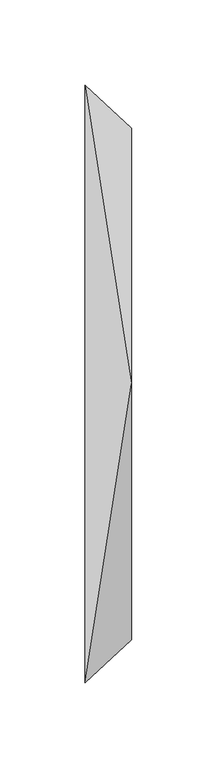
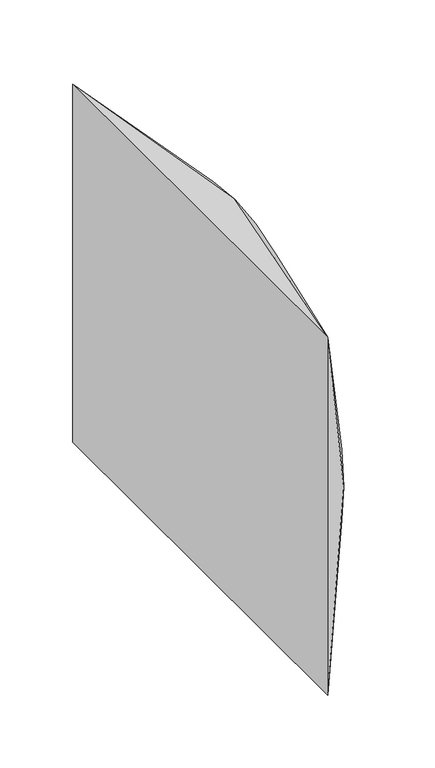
"""IFC4 building model written with IfcOpenShell, lengths in millimetres: duct fitting geometry, magicirc_multi_shape_trans_001 : magicirc_multi_shape_trans_001."""

from ifc_helpers import new_model, si_unit, frame, origin, place, context, project, spatial, circle_curve, source, transform, mapped, element, save
from ifc_brep_helpers import plane_surface, spline_surface, advanced_brep


def duct_fitting_ecc8bcd8(model_context):
    return source(origin(), model_context, "Body", "AdvancedBrep", [
        advanced_brep(
        [(0.0, -175.0, -150.0), (0.0, -175.0, 150.0), (0.0, 175.0, 150.0), (0.0, 175.0, -150.0), (27.2827125, -150.0, 0.05), (27.2827125, 0.0, -149.95), (27.2827125, 150.0, 0.05), (27.2827125, 0.0, 150.05)],
        [
            (0, 1),
            (1, 2),
            (2, 3),
            (3, 0),
            (4, 5, circle_curve(frame((27.2827125, 0.0, 0.05), z_axis=(1.0, 0.0, 0.0), x_axis=(0.0, -1.0, 0.0)), 150.0)),
            (5, 6, circle_curve(frame((27.2827125, 0.0, 0.05), z_axis=(1.0, 0.0, 0.0), x_axis=(0.0, -1.0, 0.0)), 150.0)),
            (6, 7, circle_curve(frame((27.2827125, 0.0, 0.05), z_axis=(1.0, 0.0, 0.0), x_axis=(0.0, -1.0, 0.0)), 150.0)),
            (7, 4, circle_curve(frame((27.2827125, 0.0, 0.05), z_axis=(1.0, 0.0, 0.0), x_axis=(0.0, -1.0, 0.0)), 150.0)),
            (0, 4),
            (4, 1),
            (7, 1),
            (7, 2),
            (6, 2),
            (6, 3),
            (5, 3),
            (5, 0),
        ],
        [
            plane_surface(frame((0.0, 0.0, 0.0), z_axis=(-1.0, 0.0, 0.0), x_axis=(0.0, 1.0, 0.0))),
            plane_surface(frame((27.2827125, 0.0, 0.05), z_axis=(1.0, 0.0, 0.0), x_axis=(0.0, 1.0, 0.0))),
            plane_surface(frame((27.2827125, -150.0, 0.05), z_axis=(0.6755902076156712, -0.737277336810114, 0.0), x_axis=(0.0, 0.0, 1.0))),
            spline_surface(2, 1, [[(27.2827125, -150.0, 0.05), (0.0, -175.0, 150.0)], [(27.2827125, -150.0, 150.05), (0.0, -175.0, 150.0)], [(27.2827125, 0.0, 150.05), (0.0, -175.0, 150.0)]], [3, 3], [2, 2], [0.0, 1.0], [0.0, 1.0], weights=[[1.0, 1.0], [0.7071067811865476, 0.7071067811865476], [1.0, 1.0]]),
            plane_surface(frame((27.2827125, 0.0, 150.05), z_axis=(-0.0018326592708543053, 0.0, 0.9999983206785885), x_axis=(0.0, 1.0, 0.0))),
            spline_surface(2, 1, [[(27.2827125, 0.0, 150.05), (0.0, 175.0, 150.0)], [(27.2827125, 150.0, 150.05), (0.0, 175.0, 150.0)], [(27.2827125, 150.0, 0.05), (0.0, 175.0, 150.0)]], [3, 3], [2, 2], [0.0, 1.0], [0.0, 1.0], weights=[[1.0, 1.0], [0.7071067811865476, 0.7071067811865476], [1.0, 1.0]]),
            plane_surface(frame((27.2827125, 150.0, 0.05), z_axis=(0.6755902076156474, 0.7372773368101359, 0.0), x_axis=(0.0, 0.0, -1.0))),
            spline_surface(2, 1, [[(27.2827125, 150.0, 0.05), (0.0, 175.0, -150.0)], [(27.2827125, 150.0, -149.95), (0.0, 175.0, -150.0)], [(27.2827125, 0.0, -149.95), (0.0, 175.0, -150.0)]], [3, 3], [2, 2], [0.0, 1.0], [0.0, 1.0], weights=[[1.0, 1.0], [0.7071067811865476, 0.7071067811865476], [1.0, 1.0]]),
            plane_surface(frame((27.2827125, 0.0, -149.95), z_axis=(0.001832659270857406, 0.0, -0.9999983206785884), x_axis=(0.0, -1.0, 0.0))),
            spline_surface(2, 1, [[(27.2827125, 0.0, -149.95), (0.0, -175.0, -150.0)], [(27.2827125, -150.0, -149.95), (0.0, -175.0, -150.0)], [(27.2827125, -150.0, 0.05), (0.0, -175.0, -150.0)]], [3, 3], [2, 2], [0.0, 1.0], [0.0, 1.0], weights=[[1.0, 1.0], [0.7071067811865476, 0.7071067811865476], [1.0, 1.0]]),
        ],
        [
            (0, [[1, 2, 3, 4]]),
            (1, [[5, 6, 7, 8]]),
            (2, [[-1, 9, 10]]),
            (3, [[-8, 11, -10]]),
            (4, [[-2, -11, 12]]),
            (5, [[-7, 13, -12]]),
            (6, [[-3, -13, 14]]),
            (7, [[-6, 15, -14]]),
            (8, [[-4, -15, 16]]),
            (9, [[-5, -9, -16]]),
        ],
    ),
        advanced_brep(
        [(0.0, -175.0, -150.0), (0.0, -175.0, 150.0), (0.0, 175.0, 150.0), (0.0, 175.0, -150.0), (27.2827125, -150.0, 0.05), (27.2827125, 0.0, -149.95), (27.2827125, 150.0, 0.05), (27.2827125, 0.0, 150.05)],
        [
            (0, 1),
            (1, 2),
            (2, 3),
            (3, 0),
            (4, 5, circle_curve(frame((27.2827125, 0.0, 0.05), z_axis=(1.0, 0.0, 0.0), x_axis=(0.0, -1.0, 0.0)), 150.0)),
            (5, 6, circle_curve(frame((27.2827125, 0.0, 0.05), z_axis=(1.0, 0.0, 0.0), x_axis=(0.0, -1.0, 0.0)), 150.0)),
            (6, 7, circle_curve(frame((27.2827125, 0.0, 0.05), z_axis=(1.0, 0.0, 0.0), x_axis=(0.0, -1.0, 0.0)), 150.0)),
            (7, 4, circle_curve(frame((27.2827125, 0.0, 0.05), z_axis=(1.0, 0.0, 0.0), x_axis=(0.0, -1.0, 0.0)), 150.0)),
            (0, 4),
            (4, 1),
            (7, 1),
            (7, 2),
            (6, 2),
            (6, 3),
            (5, 3),
            (5, 0),
        ],
        [
            plane_surface(frame((0.0, 0.0, 0.0), z_axis=(-1.0, 0.0, 0.0), x_axis=(0.0, 1.0, 0.0))),
            plane_surface(frame((27.2827125, 0.0, 0.05), z_axis=(1.0, 0.0, 0.0), x_axis=(0.0, 1.0, 0.0))),
            plane_surface(frame((27.2827125, -150.0, 0.05), z_axis=(0.6755902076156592, -0.737277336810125, 0.0), x_axis=(0.0, 0.0, 1.0))),
            spline_surface(2, 1, [[(27.2827125, -150.0, 0.05), (0.0, -175.0, 150.0)], [(27.2827125, -150.0, 150.05), (0.0, -175.0, 150.0)], [(27.2827125, 0.0, 150.05), (0.0, -175.0, 150.0)]], [3, 3], [2, 2], [0.0, 1.0], [0.0, 1.0], weights=[[1.0, 1.0], [0.7071067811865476, 0.7071067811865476], [1.0, 1.0]]),
            plane_surface(frame((27.2827125, 0.0, 150.05), z_axis=(-0.001832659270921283, 0.0, 0.9999983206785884), x_axis=(0.0, 1.0, 0.0))),
            spline_surface(2, 1, [[(27.2827125, 0.0, 150.05), (0.0, 175.0, 150.0)], [(27.2827125, 150.0, 150.05), (0.0, 175.0, 150.0)], [(27.2827125, 150.0, 0.05), (0.0, 175.0, 150.0)]], [3, 3], [2, 2], [0.0, 1.0], [0.0, 1.0], weights=[[1.0, 1.0], [0.7071067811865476, 0.7071067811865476], [1.0, 1.0]]),
            plane_surface(frame((27.2827125, 150.0, 0.05), z_axis=(0.6755902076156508, 0.7372773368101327, 0.0), x_axis=(0.0, 0.0, -1.0))),
            spline_surface(2, 1, [[(27.2827125, 150.0, 0.05), (0.0, 175.0, -150.0)], [(27.2827125, 150.0, -149.95), (0.0, 175.0, -150.0)], [(27.2827125, 0.0, -149.95), (0.0, 175.0, -150.0)]], [3, 3], [2, 2], [0.0, 1.0], [0.0, 1.0], weights=[[1.0, 1.0], [0.7071067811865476, 0.7071067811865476], [1.0, 1.0]]),
            plane_surface(frame((27.2827125, 0.0, -149.95), z_axis=(0.0018326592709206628, 0.0, -0.9999983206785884), x_axis=(0.0, -1.0, 0.0))),
            spline_surface(2, 1, [[(27.2827125, 0.0, -149.95), (0.0, -175.0, -150.0)], [(27.2827125, -150.0, -149.95), (0.0, -175.0, -150.0)], [(27.2827125, -150.0, 0.05), (0.0, -175.0, -150.0)]], [3, 3], [2, 2], [0.0, 1.0], [0.0, 1.0], weights=[[1.0, 1.0], [0.7071067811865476, 0.7071067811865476], [1.0, 1.0]]),
        ],
        [
            (0, [[1, 2, 3, 4]]),
            (1, [[5, 6, 7, 8]]),
            (2, [[-1, 9, 10]]),
            (3, [[-8, 11, -10]]),
            (4, [[-2, -11, 12]]),
            (5, [[-7, 13, -12]]),
            (6, [[-3, -13, 14]]),
            (7, [[-6, 15, -14]]),
            (8, [[-4, -15, 16]]),
            (9, [[-5, -9, -16]]),
        ],
    ),
        advanced_brep(
        [(27.2827125, 0.0, 150.05), (27.2827125, -150.0, 0.05), (27.2827125, 0.0, -149.95), (27.2827125, 150.0, 0.05), (0.0, -175.0, 150.0), (0.0, 175.0, 150.0), (0.0, 175.0, -150.0), (0.0, -175.0, -150.0)],
        [
            (0, 1, circle_curve(frame((27.2827125, 0.0, 0.05), z_axis=(1.0, 0.0, 0.0), x_axis=(0.0, 1.0, 0.0)), 150.0)),
            (1, 2, circle_curve(frame((27.2827125, 0.0, 0.05), z_axis=(1.0, 0.0, 0.0), x_axis=(0.0, 1.0, 0.0)), 150.0)),
            (2, 3, circle_curve(frame((27.2827125, 0.0, 0.05), z_axis=(1.0, 0.0, 0.0), x_axis=(0.0, 1.0, 0.0)), 150.0)),
            (3, 0, circle_curve(frame((27.2827125, 0.0, 0.05), z_axis=(1.0, 0.0, 0.0), x_axis=(0.0, 1.0, 0.0)), 150.0)),
            (4, 5),
            (5, 6),
            (6, 7),
            (7, 4),
            (0, 4),
            (4, 1),
            (7, 1),
            (7, 2),
            (6, 2),
            (6, 3),
            (5, 3),
            (5, 0),
        ],
        [
            plane_surface(frame((27.2827125, 0.0, 0.05), z_axis=(1.0, 0.0, 0.0), x_axis=(0.0, 0.0, -1.0))),
            plane_surface(frame((0.0, 0.0, 0.0), z_axis=(-1.0, 0.0, 0.0), x_axis=(0.0, 0.0, -1.0))),
            spline_surface(2, 1, [[(0.0, -175.0, 150.0), (27.2827125, 0.0, 150.05)], [(0.0, -175.0, 150.0), (27.2827125, -150.0, 150.05)], [(0.0, -175.0, 150.0), (27.2827125, -150.0, 0.05)]], [3, 3], [2, 2], [0.0, 1.0], [0.0, 1.0], weights=[[1.0, 1.0], [0.7071067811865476, 0.7071067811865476], [1.0, 1.0]]),
            plane_surface(frame((0.0, -175.0, 0.0), z_axis=(0.6755902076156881, -0.7372773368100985, 0.0), x_axis=(0.0, 0.0, -1.0))),
            spline_surface(2, 1, [[(0.0, -175.0, -150.0), (27.2827125, -150.0, 0.05)], [(0.0, -175.0, -150.0), (27.2827125, -150.0, -149.95)], [(0.0, -175.0, -150.0), (27.2827125, 0.0, -149.95)]], [3, 3], [2, 2], [0.0, 1.0], [0.0, 1.0], weights=[[1.0, 1.0], [0.7071067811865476, 0.7071067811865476], [1.0, 1.0]]),
            plane_surface(frame((0.0, 0.0, -150.0), z_axis=(0.001832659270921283, 0.0, -0.9999983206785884), x_axis=(0.0, 1.0, 0.0))),
            spline_surface(2, 1, [[(0.0, 175.0, -150.0), (27.2827125, 0.0, -149.95)], [(0.0, 175.0, -150.0), (27.2827125, 150.0, -149.95)], [(0.0, 175.0, -150.0), (27.2827125, 150.0, 0.05)]], [3, 3], [2, 2], [0.0, 1.0], [0.0, 1.0], weights=[[1.0, 1.0], [0.7071067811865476, 0.7071067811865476], [1.0, 1.0]]),
            plane_surface(frame((0.0, 175.0, 0.0), z_axis=(0.6755902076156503, 0.7372773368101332, 0.0), x_axis=(0.0, 0.0, 1.0))),
            spline_surface(2, 1, [[(0.0, 175.0, 150.0), (27.2827125, 150.0, 0.05)], [(0.0, 175.0, 150.0), (27.2827125, 150.0, 150.05)], [(0.0, 175.0, 150.0), (27.2827125, 0.0, 150.05)]], [3, 3], [2, 2], [0.0, 1.0], [0.0, 1.0], weights=[[1.0, 1.0], [0.7071067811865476, 0.7071067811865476], [1.0, 1.0]]),
            plane_surface(frame((0.0, 0.0, 150.0), z_axis=(-0.0018326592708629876, 0.0, 0.9999983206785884), x_axis=(0.0, -1.0, 0.0))),
        ],
        [
            (0, [[1, 2, 3, 4]]),
            (1, [[5, 6, 7, 8]]),
            (2, [[-1, 9, 10]]),
            (3, [[-8, 11, -10]]),
            (4, [[-2, -11, 12]]),
            (5, [[-7, 13, -12]]),
            (6, [[-3, -13, 14]]),
            (7, [[-6, 15, -14]]),
            (8, [[-4, -15, 16]]),
            (9, [[-5, -9, -16]]),
        ],
    ),
    ])


if __name__ == "__main__":
    model = new_model("IFC4")
    model_context = context("Model", 3, world=origin())
    ifc_project = project(units=[si_unit("LENGTHUNIT", "METRE", prefix="MILLI")], contexts=[model_context])
    site = spatial("IfcSite", under=ifc_project)
    building = spatial("IfcBuilding", under=site)
    placement = place(None, origin())
    duct_fitting_shape = duct_fitting_ecc8bcd8(model_context)
    element("IfcDuctFitting", 1, ObjectType="magicirc_multi_shape_trans_001 : magicirc_multi_shape_trans_001", at=placement, inside=building, context=model_context, shape_type="MappedRepresentation", body=[
        mapped(duct_fitting_shape, transform((0.0, 0.0, 0.0), x_axis=(1.0, 0.0, 0.0), y_axis=(0.0, 1.0, 0.0), z_axis=(0.0, 0.0, 1.0))),
    ])
    save(model, "model.ifc")
